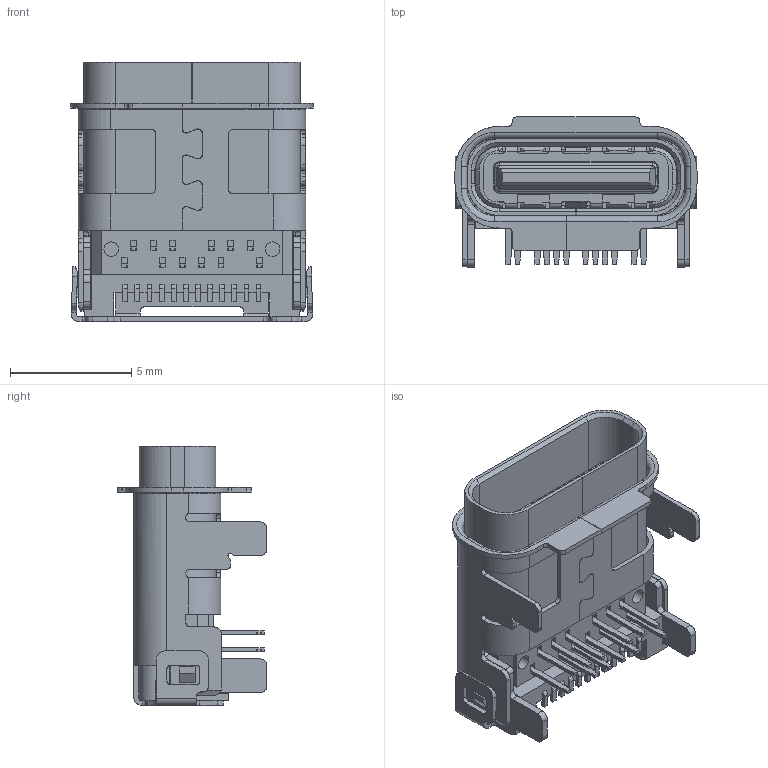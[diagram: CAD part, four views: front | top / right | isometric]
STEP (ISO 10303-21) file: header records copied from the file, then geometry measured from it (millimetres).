
FILE_DESCRIPTION (( 'STEP AP214' ), '1' );
FILE_NAME ('U5262-24PN10.79L.STEP', '2026-06-01T02:29:01', ( '' ), ( '' ), 'SwSTEP 2.0', 'SolidWorks 2024', '' );
FILE_SCHEMA (( 'AUTOMOTIVE_DESIGN' ));
Length unit declared in the file: millimetre
Products named in the file (3): U5262-24PN10.79L(2); U5262-24PN10.79L; p1
Assembly tree (2 placements, depth 3):
  U5262-24PN10.79L
    U5262-24PN10.79L(2)
      p1
Bounding box: 9.99 x 6.19 x 10.69 mm (x, y, z)
Surface area: 1166.2 mm2 (no closed solid volume)
Topology: 0 solids, 2 shells, 1268 faces, 3729 edges, 2434 vertices
Faces by surface type: plane 842, cylinder 386, torus 20, cone 16, bspline 4
Entity records: 46733 total; most frequent: CARTESIAN_POINT 20330, ORIENTED_EDGE 7398, EDGE_CURVE 3729, B_SPLINE_CURVE_WITH_KNOTS 3689, DIRECTION 2580, VERTEX_POINT 2434, EDGE_LOOP 1316, AXIS2_PLACEMENT_3D 1270
